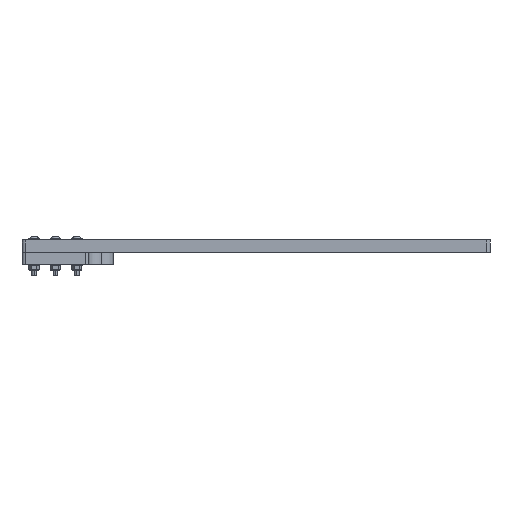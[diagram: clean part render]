
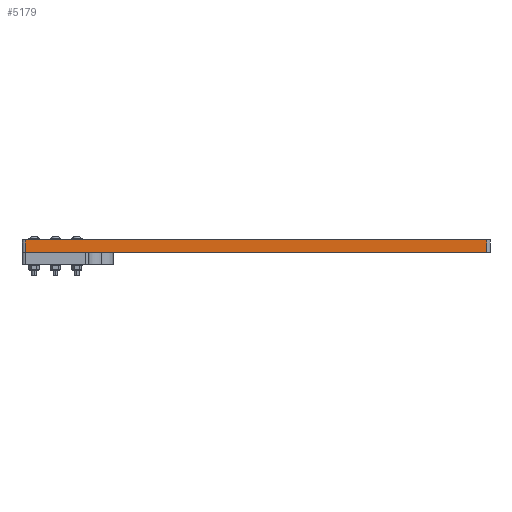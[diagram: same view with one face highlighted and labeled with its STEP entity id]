
A CAD part, left-side view. The second image highlights one B-rep face of the part: STEP entity #5179.
In plain terms, the highlighted planar face has unit normal (-1, 0, 0).
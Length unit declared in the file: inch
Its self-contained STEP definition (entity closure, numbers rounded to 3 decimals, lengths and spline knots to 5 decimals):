
#28 = EDGE_CURVE ( 'NONE', #891, #6229, #5186, .T. ) ;
#72 = ORIENTED_EDGE ( 'NONE', *, *, #2967, .T. ) ;
#301 = ORIENTED_EDGE ( 'NONE', *, *, #28, .F. ) ;
#351 = CARTESIAN_POINT ( 'NONE',  ( -0.5, 0.5, 9.625 ) ) ;
#864 = EDGE_CURVE ( 'NONE', #4245, #7056, #1059, .T. ) ;
#891 = VERTEX_POINT ( 'NONE', #3520 ) ;
#916 = CARTESIAN_POINT ( 'NONE',  ( -0.5, 0.5, -9.5 ) ) ;
#1059 = LINE ( 'NONE', #3453, #3165 ) ;
#1098 = DIRECTION ( 'NONE',  ( 0., 0., 1. ) ) ;
#1253 = CARTESIAN_POINT ( 'NONE',  ( -0.5, 0.5, 9.625 ) ) ;
#2322 = CARTESIAN_POINT ( 'NONE',  ( -0.5, 0.5, 9.5 ) ) ;
#2394 = CARTESIAN_POINT ( 'NONE',  ( -0.5, 0., -9.5 ) ) ;
#2933 = ORIENTED_EDGE ( 'NONE', *, *, #864, .T. ) ;
#2967 = EDGE_CURVE ( 'NONE', #891, #4245, #5277, .T. ) ;
#3165 = VECTOR ( 'NONE', #6228, 39.37008 ) ;
#3306 = FACE_OUTER_BOUND ( 'NONE', #7308, .T. ) ;
#3392 = VECTOR ( 'NONE', #6433, 39.37008 ) ;
#3453 = CARTESIAN_POINT ( 'NONE',  ( -0.5, 0., 9.625 ) ) ;
#3516 = VECTOR ( 'NONE', #4018, 39.37008 ) ;
#3520 = CARTESIAN_POINT ( 'NONE',  ( -0.5, 0.5, -9.5 ) ) ;
#4018 = DIRECTION ( 'NONE',  ( 0., 1., 0. ) ) ;
#4245 = VERTEX_POINT ( 'NONE', #2394 ) ;
#4269 = EDGE_CURVE ( 'NONE', #7056, #6229, #5247, .T. ) ;
#4777 = ORIENTED_EDGE ( 'NONE', *, *, #4269, .T. ) ;
#4898 = AXIS2_PLACEMENT_3D ( 'NONE', #351, #4992, #4925 ) ;
#4925 = DIRECTION ( 'NONE',  ( 0., 0., -1. ) ) ;
#4992 = DIRECTION ( 'NONE',  ( 1., 0., 0. ) ) ;
#5031 = VECTOR ( 'NONE', #1098, 39.37008 ) ;
#5179 = ADVANCED_FACE ( 'NONE', ( #3306 ), #6610, .F. ) ;
#5186 = LINE ( 'NONE', #1253, #5031 ) ;
#5247 = LINE ( 'NONE', #2322, #3516 ) ;
#5277 = LINE ( 'NONE', #916, #3392 ) ;
#6228 = DIRECTION ( 'NONE',  ( 0., 0., 1. ) ) ;
#6229 = VERTEX_POINT ( 'NONE', #7247 ) ;
#6315 = CARTESIAN_POINT ( 'NONE',  ( -0.5, 0., 9.5 ) ) ;
#6433 = DIRECTION ( 'NONE',  ( 0., -1., 0. ) ) ;
#6610 = PLANE ( 'NONE',  #4898 ) ;
#7056 = VERTEX_POINT ( 'NONE', #6315 ) ;
#7247 = CARTESIAN_POINT ( 'NONE',  ( -0.5, 0.5, 9.5 ) ) ;
#7308 = EDGE_LOOP ( 'NONE', ( #301, #72, #2933, #4777 ) ) ;
